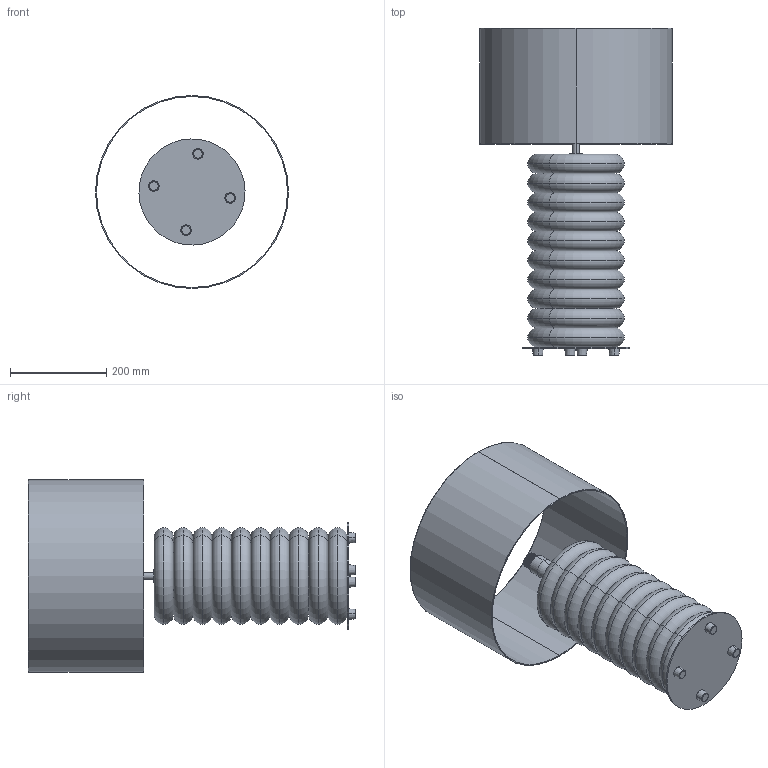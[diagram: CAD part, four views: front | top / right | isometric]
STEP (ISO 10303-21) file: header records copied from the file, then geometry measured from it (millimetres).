
FILE_DESCRIPTION (( 'STEP AP214' ), '1' );
FILE_NAME ('ONUT_NAC130-2.STEP', '2023-11-02T08:11:21', ( '' ), ( '' ), 'SwSTEP 2.0', 'SolidWorks 2018', '' );
FILE_SCHEMA (( 'AUTOMOTIVE_DESIGN' ));
Length unit declared in the file: millimetre
Products named in the file (16): base abajo; ONUT_NAC130-2; FLOTADOR_NAC130; pantalla
Assembly tree (12 placements, depth 2):
  base abajo
  ONUT_NAC130-2
    pantalla
    FLOTADOR_NAC130  x10
    base abajo
  FLOTADOR_NAC130
  pantalla
  FLOTADOR_NAC130
Bounding box: 400 x 678.98 x 400 mm (x, y, z)
Volume: 4276964.2 mm3; surface area: 2103039.5 mm2
Topology: 17 solids, 17 shells, 423 faces, 864 edges, 556 vertices
Faces by surface type: cylinder 201, plane 117, torus 94, cone 8, bspline 3
Entity records: 5563 total; most frequent: CARTESIAN_POINT 2701, DIRECTION 568, ORIENTED_EDGE 504, EDGE_CURVE 252, AXIS2_PLACEMENT_3D 251, VERTEX_POINT 160, EDGE_LOOP 130, CIRCLE 121
